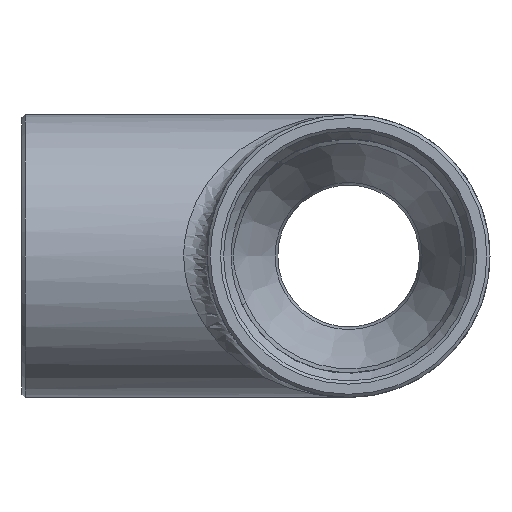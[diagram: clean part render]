
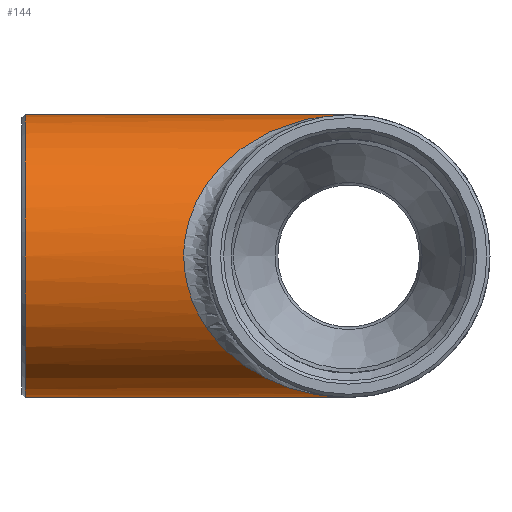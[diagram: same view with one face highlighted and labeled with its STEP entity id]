
A CAD part, left-side view. The second image highlights one B-rep face of the part: STEP entity #144.
In plain terms, the highlighted cylindrical face has radius 9.05 mm (diameter 18.1 mm), a full revolution.
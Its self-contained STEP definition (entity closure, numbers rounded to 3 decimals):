
#73=CARTESIAN_POINT('',(-9.05,20.7,0.));
#74=VERTEX_POINT('',#73);
#75=CARTESIAN_POINT('',(0.,20.7,0.0));
#76=DIRECTION('',(0.0,1.0,0.0));
#77=DIRECTION('',(1.0,0.0,0.0));
#78=AXIS2_PLACEMENT_3D('',#75,#76,#77);
#79=CIRCLE('',#78,9.05);
#80=EDGE_CURVE('',#74,#74,#79,.T.);
#116=CARTESIAN_POINT('',(0.,10.45,0.0));
#117=DIRECTION('',(0.,1.0,0.0));
#118=DIRECTION('',(-1.0,0.0,0.0));
#119=AXIS2_PLACEMENT_3D('',#116,#117,#118);
#120=CYLINDRICAL_SURFACE('',#119,9.05);
#121=CARTESIAN_POINT('',(0.,0.0,-9.05));
#122=VERTEX_POINT('',#121);
#123=CARTESIAN_POINT('',(0.,0.0,9.05));
#124=VERTEX_POINT('',#123);
#125=CARTESIAN_POINT('',(0.,0.0,0.0));
#126=DIRECTION('',(0.759,-0.651,0.));
#127=DIRECTION('',(0.651,0.759,0.0));
#128=AXIS2_PLACEMENT_3D('',#125,#126,#127);
#129=ELLIPSE('',#128,13.9,9.05);
#130=EDGE_CURVE('',#122,#124,#129,.T.);
#131=ORIENTED_EDGE('',*,*,#130,.F.);
#132=CARTESIAN_POINT('',(0.,0.0,0.0));
#133=DIRECTION('',(-0.759,-0.651,0.));
#134=DIRECTION('',(-0.651,0.759,0.0));
#135=AXIS2_PLACEMENT_3D('',#132,#133,#134);
#136=ELLIPSE('',#135,13.9,9.05);
#137=EDGE_CURVE('',#124,#122,#136,.T.);
#138=ORIENTED_EDGE('',*,*,#137,.F.);
#139=EDGE_LOOP('',(#131,#138));
#140=FACE_OUTER_BOUND('',#139,.T.);
#141=ORIENTED_EDGE('',*,*,#80,.F.);
#142=EDGE_LOOP('',(#141));
#143=FACE_BOUND('',#142,.T.);
#144=ADVANCED_FACE('',(#140,#143),#120,.T.);
